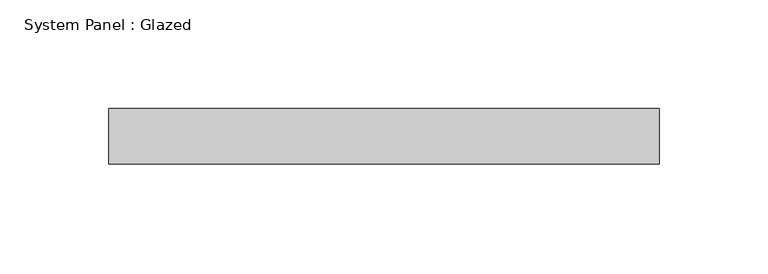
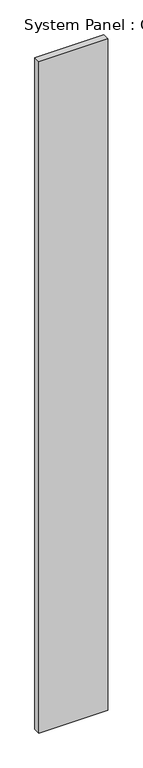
"""IFC4 building model written with IfcOpenShell, lengths in millimetres: plate geometry, System Panel : Glazed."""

import ifcopenshell
import ifcopenshell.guid

model = None  # the IFC model being written
_history = None  # IfcOwnerHistory: only IFC2X3 demands one
_inside = {}  # id of a spatial element -> (the spatial element, [elements in it])
_under = {}  # id of a project, library or spatial element -> (it, [spatial elements below it])
_declared = {}  # id of a project -> (the project, [libraries it declares])
_typed = {}  # id of a type object -> (the type object, [elements of that type])
_made_of = {}  # id of a material, layer set ... -> (it, [elements and type objects made of it])


def new_model(schema):
    """Start an empty IFC model of exactly this schema.

    Asked for "IFC4X3", IfcOpenShell would pick the latest addendum, in which some entities
    have other attributes; the version numbers below select the first issue.
    IFC2X3 requires an IfcOwnerHistory on every rooted entity: one is made here for all.
    """
    global model, _history
    if schema == "IFC4X3":
        model = ifcopenshell.file(schema_version=(4, 3, 0, 0))
    else:
        model = ifcopenshell.file(schema=schema)
    _inside.clear()
    _under.clear()
    _declared.clear()
    _typed.clear()
    _made_of.clear()
    _history = None
    if model.schema == "IFC2X3":
        org = make("IfcOrganization", Name="unknown")
        user = make(
            "IfcPersonAndOrganization",
            ThePerson=make("IfcPerson", FamilyName="unknown"),
            TheOrganization=org,
        )
        app = make(
            "IfcApplication",
            ApplicationDeveloper=org,
            Version="unknown",
            ApplicationFullName="unknown",
            ApplicationIdentifier="unknown",
        )
        _history = make(
            "IfcOwnerHistory",
            OwningUser=user,
            OwningApplication=app,
            ChangeAction="ADDED",
            CreationDate=0,
        )
    return model


def make(cls, **values):
    """One entity of the class cls with the attributes given. An attribute that is None is left unset."""
    return model.create_entity(
        cls, **{name: value for name, value in values.items() if value is not None}
    )


def rooted(cls, **values):
    """An entity with a GlobalId (a new one), such as an element, a storey or a relation."""
    return make(cls, GlobalId=ifcopenshell.guid.new(), OwnerHistory=_history, **values)


def si_unit(unit_type, name, prefix=None):
    """IfcSIUnit, for example si_unit("LENGTHUNIT", "METRE", prefix="MILLI")."""
    return make("IfcSIUnit", UnitType=unit_type, Prefix=prefix, Name=name)


def assignment(units):
    """IfcUnitAssignment: the units of a project."""
    return None if units is None else make("IfcUnitAssignment", Units=units)


def point(xyz):
    """IfcCartesianPoint."""
    return None if xyz is None else make("IfcCartesianPoint", Coordinates=xyz)


def direction(xyz):
    """IfcDirection."""
    return None if xyz is None else make("IfcDirection", DirectionRatios=xyz)


def frame(location, z_axis=None, x_axis=None):
    """IfcAxis2Placement3D, a coordinate frame: its origin and axes. An axis left out is left unset."""
    return make(
        "IfcAxis2Placement3D",
        Location=point(location),
        Axis=direction(z_axis),
        RefDirection=direction(x_axis),
    )


def origin():
    """The frame at (0, 0, 0) with its axes left unset."""
    return frame((0.0, 0.0, 0.0))


def origin_with_axes():
    """The frame at (0, 0, 0) with the z axis (0, 0, 1) and the x axis (1, 0, 0) written out."""
    return frame((0.0, 0.0, 0.0), z_axis=(0.0, 0.0, 1.0), x_axis=(1.0, 0.0, 0.0))


def place(relative_to, where):
    """IfcLocalPlacement: puts the frame where relative to a parent placement (None: the world)."""
    return make(
        "IfcLocalPlacement", PlacementRelTo=relative_to, RelativePlacement=where
    )


def context(
    kind, dimensions, precision=None, world=None, true_north=None, identifier=None
):
    """IfcGeometricRepresentationContext, for example the 3D "Model" context."""
    return make(
        "IfcGeometricRepresentationContext",
        ContextIdentifier=identifier,
        ContextType=kind,
        CoordinateSpaceDimension=dimensions,
        Precision=precision,
        WorldCoordinateSystem=world,
        TrueNorth=true_north,
    )


def project(units=None, contexts=None):
    """IfcProject with its units and contexts."""
    return rooted(
        "IfcProject",
        Name="project",
        RepresentationContexts=contexts,
        UnitsInContext=assignment(units),
    )


def spatial(cls, under=None, at=None, **own):
    """A site, building, storey or space (cls), placed at a placement, below another one or the project."""
    s = rooted(cls, ObjectPlacement=at, **own)
    if under is not None:
        _under.setdefault(under.id(), (under, []))[1].append(s)
    return s


def polyline(points):
    """IfcPolyline through the points."""
    return make("IfcPolyline", Points=[point(p) for p in points])


def outline(outer, holes=None, kind="AREA"):
    """IfcArbitraryClosedProfileDef: a profile drawn as a closed curve; with holes, ...WithVoids."""
    if holes is None:
        return make("IfcArbitraryClosedProfileDef", ProfileType=kind, OuterCurve=outer)
    return make(
        "IfcArbitraryProfileDefWithVoids",
        ProfileType=kind,
        OuterCurve=outer,
        InnerCurves=holes,
    )


def extrude(swept, where, along, depth):
    """IfcExtrudedAreaSolid: the profile swept, set in the frame where, extruded along a direction by depth."""
    return make(
        "IfcExtrudedAreaSolid",
        SweptArea=swept,
        Position=where,
        ExtrudedDirection=direction(along),
        Depth=depth,
    )


def shape(context_of_items, identifier, shape_type, items):
    """IfcShapeRepresentation: the items that make up one representation, for example the "Body"."""
    return make(
        "IfcShapeRepresentation",
        ContextOfItems=context_of_items,
        RepresentationIdentifier=identifier,
        RepresentationType=shape_type,
        Items=items,
    )


def source(mapping_origin, context_of_items, identifier, shape_type, items):
    """IfcRepresentationMap: a shape defined once, which mapped items show again and again."""
    return make(
        "IfcRepresentationMap",
        MappingOrigin=mapping_origin,
        MappedRepresentation=shape(context_of_items, identifier, shape_type, items),
    )


def transform(
    local_origin,
    x_axis=None,
    y_axis=None,
    z_axis=None,
    scale=None,
    scale2=None,
    scale3=None,
    uniform=True,
):
    """IfcCartesianTransformationOperator3D, or its non-uniform kind. x_axis, y_axis, z_axis: its Axis1, 2, 3."""
    if uniform:
        return make(
            "IfcCartesianTransformationOperator3D",
            Axis1=direction(x_axis),
            Axis2=direction(y_axis),
            LocalOrigin=point(local_origin),
            Scale=scale,
            Axis3=direction(z_axis),
        )
    return make(
        "IfcCartesianTransformationOperator3DnonUniform",
        Axis1=direction(x_axis),
        Axis2=direction(y_axis),
        LocalOrigin=point(local_origin),
        Scale=scale,
        Axis3=direction(z_axis),
        Scale2=scale2,
        Scale3=scale3,
    )


def mapped(mapping_source, mapping_target):
    """IfcMappedItem: shows the shape of a source again, moved by a transform."""
    return make(
        "IfcMappedItem", MappingSource=mapping_source, MappingTarget=mapping_target
    )


def made_of(thing, what):
    """Note that an element or type object is made of a material, layer set ...; save() writes the relation."""
    if what is not None:
        _made_of.setdefault(what.id(), (what, []))[1].append(thing)
    return thing


def element(
    cls,
    number,
    at=None,
    inside=None,
    cuts=None,
    type_object=None,
    material=None,
    context=None,
    identifier="Body",
    shape_type=None,
    held_by="IfcProductDefinitionShape",
    body=None,
    shapes=None,
    **own,
):
    """One element of the class cls, such as IfcWall. Its Tag is "e" and its number.

    at: its placement. inside: the storey or other place that contains it. cuts: it is an
    opening in that element (IfcRelVoidsElement). A single representation is given by context,
    identifier, shape_type and body (its items); several are given by shapes. held_by: the class
    of the entity that holds the representations. save() writes the other relations.
    """
    e = rooted(cls, Tag="e%d" % number, ObjectPlacement=at, **own)
    if body is not None:
        shapes = [shape(context, identifier, shape_type, body)]
    if shapes is not None:
        e.Representation = make(held_by, Representations=shapes)
    if inside is not None:
        _inside.setdefault(inside.id(), (inside, []))[1].append(e)
    if cuts is not None:
        rooted(
            "IfcRelVoidsElement", RelatingBuildingElement=cuts, RelatedOpeningElement=e
        )
    if type_object is not None:
        _typed.setdefault(type_object.id(), (type_object, []))[1].append(e)
    return made_of(e, material)


def aggregate(whole, parts):
    """IfcRelAggregates: a whole, such as a stair, and the parts it consists of."""
    return rooted("IfcRelAggregates", RelatingObject=whole, RelatedObjects=parts)


def save(model, path):
    """Write the relations noted so far, then the file.

    IfcRelAggregates (storeys below a building ...), IfcRelContainedInSpatialStructure (elements
    in a storey), IfcRelDefinesByType, IfcRelAssociatesMaterial and IfcRelDeclares: one each for
    every whole, place, type object, material and project.
    """
    for whole, parts in _under.values():
        aggregate(whole, parts)
    for where, things in _inside.values():
        rooted(
            "IfcRelContainedInSpatialStructure",
            RelatedElements=things,
            RelatingStructure=where,
        )
    for kind, things in _typed.values():
        rooted("IfcRelDefinesByType", RelatedObjects=things, RelatingType=kind)
    for what, things in _made_of.values():
        rooted("IfcRelAssociatesMaterial", RelatedObjects=things, RelatingMaterial=what)
    for by, libraries in _declared.values():
        rooted("IfcRelDeclares", RelatingContext=by, RelatedDefinitions=libraries)
    model.write(path)


def system_panel_glazed_9605d38a(model_context):
    return source(origin(), model_context, "Body", "SweptSolid", [
        extrude(outline(polyline([(126.1891403, 19.05), (-126.1891403, 19.05), (-126.1891403, 44.45), (126.1891403, 44.45), (126.1891403, 19.05)])), origin_with_axes(), (0.0, 0.0, 1.0), 2597.7570075),
    ])


if __name__ == "__main__":
    model = new_model("IFC4")
    model_context = context("Model", 3, world=origin())
    ifc_project = project(units=[si_unit("LENGTHUNIT", "METRE", prefix="MILLI")], contexts=[model_context])
    site = spatial("IfcSite", under=ifc_project)
    building = spatial("IfcBuilding", under=site)
    placement = place(None, origin())
    system_panel_glazed_shape = system_panel_glazed_9605d38a(model_context)
    element("IfcPlate", 1, ObjectType="System Panel : Glazed", at=placement, inside=building, context=model_context, shape_type="MappedRepresentation", body=[
        mapped(system_panel_glazed_shape, transform((0.0, 0.0, 0.0), x_axis=(1.0, 0.0, 0.0), y_axis=(0.0, 1.0, 0.0), z_axis=(0.0, 0.0, 1.0))),
    ])
    save(model, "model.ifc")
